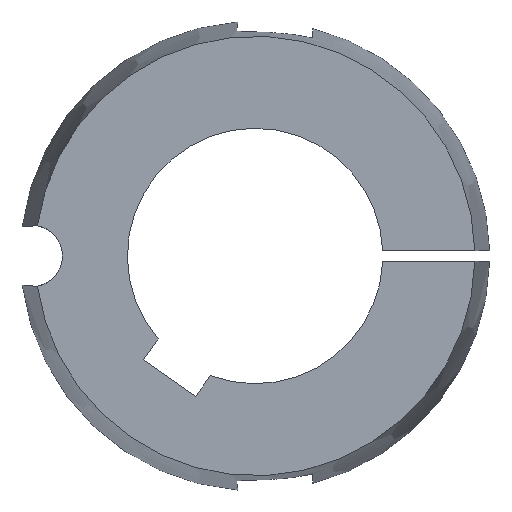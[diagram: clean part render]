
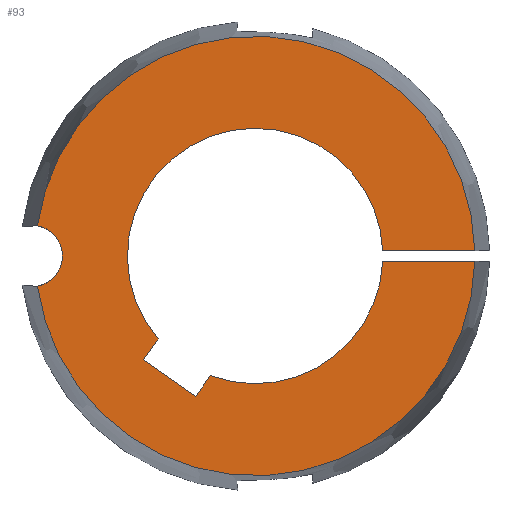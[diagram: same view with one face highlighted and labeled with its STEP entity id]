
A CAD part, left-side view. The second image highlights one B-rep face of the part: STEP entity #93.
In plain terms, the highlighted planar face has unit normal (-1, 0, 0).
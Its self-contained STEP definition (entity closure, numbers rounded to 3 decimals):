
#93 = ADVANCED_FACE( '', ( #136 ), #137, .T. );
#136 = FACE_OUTER_BOUND( '', #184, .T. );
#137 = PLANE( '', #185 );
#184 = EDGE_LOOP( '', ( #346, #347, #348, #349, #350, #351, #352, #353, #354, #355, #356, #357 ) );
#185 = AXIS2_PLACEMENT_3D( '', #358, #359, #360 );
#346 = ORIENTED_EDGE( '', *, *, #439, .T. );
#347 = ORIENTED_EDGE( '', *, *, #403, .T. );
#348 = ORIENTED_EDGE( '', *, *, #428, .T. );
#349 = ORIENTED_EDGE( '', *, *, #449, .T. );
#350 = ORIENTED_EDGE( '', *, *, #451, .T. );
#351 = ORIENTED_EDGE( '', *, *, #452, .T. );
#352 = ORIENTED_EDGE( '', *, *, #453, .T. );
#353 = ORIENTED_EDGE( '', *, *, #454, .T. );
#354 = ORIENTED_EDGE( '', *, *, #455, .T. );
#355 = ORIENTED_EDGE( '', *, *, #399, .T. );
#356 = ORIENTED_EDGE( '', *, *, #450, .T. );
#357 = ORIENTED_EDGE( '', *, *, #436, .T. );
#358 = CARTESIAN_POINT( '', ( -31.8, 16.388, 0. ) );
#359 = DIRECTION( '', ( -1., 0., 0. ) );
#360 = DIRECTION( '', ( 0., 1., 0. ) );
#399 = EDGE_CURVE( '', #461, #465, #467, .T. );
#403 = EDGE_CURVE( '', #469, #473, #475, .T. );
#428 = EDGE_CURVE( '', #473, #516, #518, .T. );
#436 = EDGE_CURVE( '', #530, #528, #531, .T. );
#439 = EDGE_CURVE( '', #528, #469, #535, .T. );
#449 = EDGE_CURVE( '', #516, #549, #551, .T. );
#450 = EDGE_CURVE( '', #465, #530, #552, .T. );
#451 = EDGE_CURVE( '', #549, #553, #554, .T. );
#452 = EDGE_CURVE( '', #553, #555, #556, .T. );
#453 = EDGE_CURVE( '', #555, #557, #558, .T. );
#454 = EDGE_CURVE( '', #557, #559, #560, .T. );
#455 = EDGE_CURVE( '', #559, #461, #561, .T. );
#461 = VERTEX_POINT( '', #567 );
#465 = VERTEX_POINT( '', #572 );
#467 = CIRCLE( '', #575, 19.05 );
#469 = VERTEX_POINT( '', #577 );
#473 = VERTEX_POINT( '', #582 );
#475 = CIRCLE( '', #593, 4.6 );
#516 = VERTEX_POINT( '', #776 );
#518 = CIRCLE( '', #787, 32.776 );
#528 = VERTEX_POINT( '', #839 );
#530 = VERTEX_POINT( '', #850 );
#531 = CIRCLE( '', #851, 32.776 );
#535 = CIRCLE( '', #864, 4.6 );
#549 = VERTEX_POINT( '', #883 );
#551 = LINE( '', #886, #887 );
#552 = LINE( '', #888, #889 );
#553 = VERTEX_POINT( '', #890 );
#554 = CIRCLE( '', #891, 19.05 );
#555 = VERTEX_POINT( '', #892 );
#556 = LINE( '', #893, #894 );
#557 = VERTEX_POINT( '', #895 );
#558 = LINE( '', #896, #897 );
#559 = VERTEX_POINT( '', #898 );
#560 = LINE( '', #899, #900 );
#561 = CIRCLE( '', #901, 19.05 );
#567 = CARTESIAN_POINT( '', ( -31.8, -14.481, 12.378 ) );
#572 = CARTESIAN_POINT( '', ( -31.8, -19.035, 0.75 ) );
#575 = AXIS2_PLACEMENT_3D( '', #915, #916, #917 );
#577 = CARTESIAN_POINT( '', ( -31.8, 28.74, 0. ) );
#582 = CARTESIAN_POINT( '', ( -31.8, 32.464, -4.516 ) );
#593 = AXIS2_PLACEMENT_3D( '', #922, #923, #924 );
#776 = CARTESIAN_POINT( '', ( -31.8, -32.768, -0.75 ) );
#787 = AXIS2_PLACEMENT_3D( '', #958, #959, #960 );
#839 = CARTESIAN_POINT( '', ( -31.8, 32.464, 4.516 ) );
#850 = CARTESIAN_POINT( '', ( -31.8, -32.768, 0.75 ) );
#851 = AXIS2_PLACEMENT_3D( '', #973, #974, #975 );
#864 = AXIS2_PLACEMENT_3D( '', #979, #980, #981 );
#883 = CARTESIAN_POINT( '', ( -31.8, -19.035, -0.75 ) );
#886 = CARTESIAN_POINT( '', ( -31.8, -9.306, -0.75 ) );
#887 = VECTOR( '', #997, 1. );
#888 = CARTESIAN_POINT( '', ( -31.8, 8.194, 0.75 ) );
#889 = VECTOR( '', #998, 1. );
#890 = CARTESIAN_POINT( '', ( -31.8, 6.678, -17.841 ) );
#891 = AXIS2_PLACEMENT_3D( '', #999, #1000, #1001 );
#892 = CARTESIAN_POINT( '', ( -31.8, 8.847, -20.937 ) );
#893 = CARTESIAN_POINT( '', ( -31.8, 4.084, -14.136 ) );
#894 = VECTOR( '', #1002, 1. );
#895 = CARTESIAN_POINT( '', ( -31.8, 16.649, -15.474 ) );
#896 = CARTESIAN_POINT( '', ( -31.8, 16.295, -15.722 ) );
#897 = VECTOR( '', #1003, 1. );
#898 = CARTESIAN_POINT( '', ( -31.8, 14.481, -12.378 ) );
#899 = CARTESIAN_POINT( '', ( -31.8, 12.971, -10.221 ) );
#900 = VECTOR( '', #1004, 1. );
#901 = AXIS2_PLACEMENT_3D( '', #1005, #1006, #1007 );
#915 = CARTESIAN_POINT( '', ( -31.8, 0., 0. ) );
#916 = DIRECTION( '', ( 1., 0., 0. ) );
#917 = DIRECTION( '', ( 0., 0.76, -0.65 ) );
#922 = CARTESIAN_POINT( '', ( -31.8, 33.34, 0. ) );
#923 = DIRECTION( '', ( 1., 0., 0. ) );
#924 = DIRECTION( '', ( 0., 1., 0. ) );
#958 = CARTESIAN_POINT( '', ( -31.8, 0., 0. ) );
#959 = DIRECTION( '', ( -1., 0., 0. ) );
#960 = DIRECTION( '', ( 0., 1., 0. ) );
#973 = CARTESIAN_POINT( '', ( -31.8, 0., 0. ) );
#974 = DIRECTION( '', ( -1., 0., 0. ) );
#975 = DIRECTION( '', ( 0., 1., 0. ) );
#979 = CARTESIAN_POINT( '', ( -31.8, 33.34, 0. ) );
#980 = DIRECTION( '', ( 1., 0., 0. ) );
#981 = DIRECTION( '', ( 0., 1., 0. ) );
#997 = DIRECTION( '', ( 0., 1., 0. ) );
#998 = DIRECTION( '', ( 0., -1., 0. ) );
#999 = CARTESIAN_POINT( '', ( -31.8, 0., 0. ) );
#1000 = DIRECTION( '', ( 1., 0., 0. ) );
#1001 = DIRECTION( '', ( 0., 0.76, -0.65 ) );
#1002 = DIRECTION( '', ( 0., 0.574, -0.819 ) );
#1003 = DIRECTION( '', ( 0., 0.819, 0.574 ) );
#1004 = DIRECTION( '', ( 0., -0.574, 0.819 ) );
#1005 = CARTESIAN_POINT( '', ( -31.8, 0., 0. ) );
#1006 = DIRECTION( '', ( 1., 0., 0. ) );
#1007 = DIRECTION( '', ( 0., 0.76, -0.65 ) );
